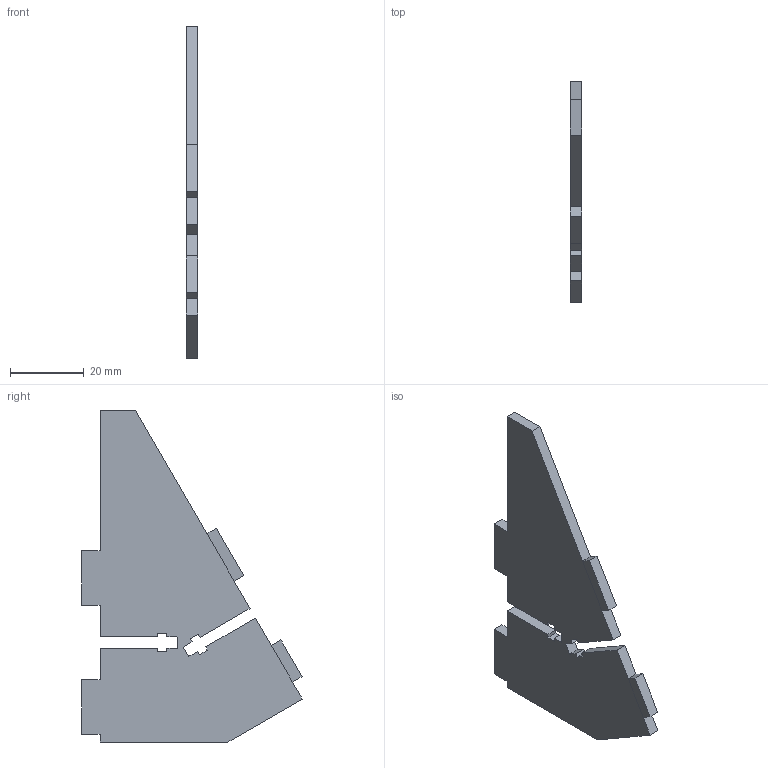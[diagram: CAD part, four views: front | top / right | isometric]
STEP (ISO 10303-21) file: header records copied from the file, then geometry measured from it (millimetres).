
FILE_DESCRIPTION(/* description */ (''),/* implementation_level */ '2;1');
FILE_NAME(/* name */ 'TAPALC~2',/* time_stamp */ '2019-04-01T20:06:04-03:00',/* author */ (''),/* organization */ (''),/* preprocessor_version */ 'ST-DEVELOPER v16.5',/* originating_system */ '',/* authorisation */ '');
FILE_SCHEMA (('AUTOMOTIVE_DESIGN'));
Length unit declared in the file: millimetre
Products named in the file (1): Document
Bounding box: 3 x 60.05 x 90.33 mm (x, y, z)
Volume: 9479 mm3; surface area: 7438.4 mm2
Topology: 1 solids, 1 shells, 51 faces, 139 edges, 90 vertices
Faces by surface type: plane 47, bspline 4
Entity records: 1458 total; most frequent: CARTESIAN_POINT 498, ORIENTED_EDGE 278, EDGE_CURVE 139, B_SPLINE_CURVE_WITH_KNOTS 139, VERTEX_POINT 90, ADVANCED_FACE 51, FACE_OUTER_BOUND 51, EDGE_LOOP 51
